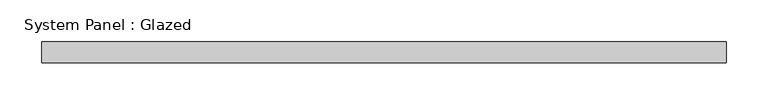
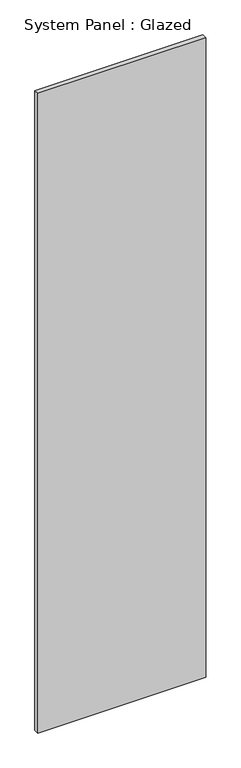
"""IFC4 building model written with IfcOpenShell, lengths in millimetres: plate geometry, System Panel : Glazed."""

from ifc_helpers import new_model, si_unit, origin, origin_with_axes, place, context, project, spatial, polyline, outline, extrude, source, transform, mapped, element, save


def system_panel_glazed_c9f14143(model_context):
    return source(origin(), model_context, "Body", "SweptSolid", [
        extrude(outline(polyline([(410.0, 24.5), (-410.0, 24.5), (-410.0, 49.5), (410.0, 49.5), (410.0, 24.5)])), origin_with_axes(), (0.0, 0.0, 1.0), 3300.0),
    ])


if __name__ == "__main__":
    model = new_model("IFC4")
    model_context = context("Model", 3, world=origin())
    ifc_project = project(units=[si_unit("LENGTHUNIT", "METRE", prefix="MILLI")], contexts=[model_context])
    site = spatial("IfcSite", under=ifc_project)
    building = spatial("IfcBuilding", under=site)
    placement = place(None, origin())
    system_panel_glazed_shape = system_panel_glazed_c9f14143(model_context)
    element("IfcPlate", 1, ObjectType="System Panel : Glazed", at=placement, inside=building, context=model_context, shape_type="MappedRepresentation", body=[
        mapped(system_panel_glazed_shape, transform((0.0, 0.0, 0.0), x_axis=(1.0, 0.0, 0.0), y_axis=(0.0, 1.0, 0.0), z_axis=(0.0, 0.0, 1.0))),
    ])
    save(model, "model.ifc")
